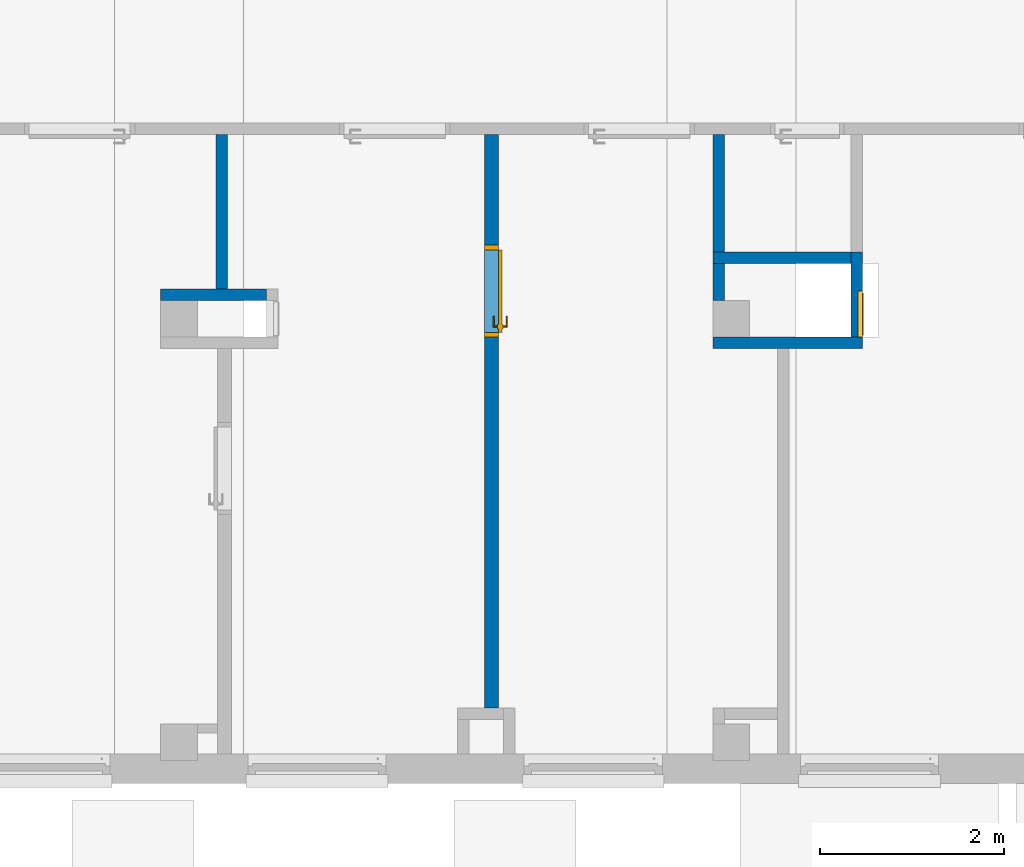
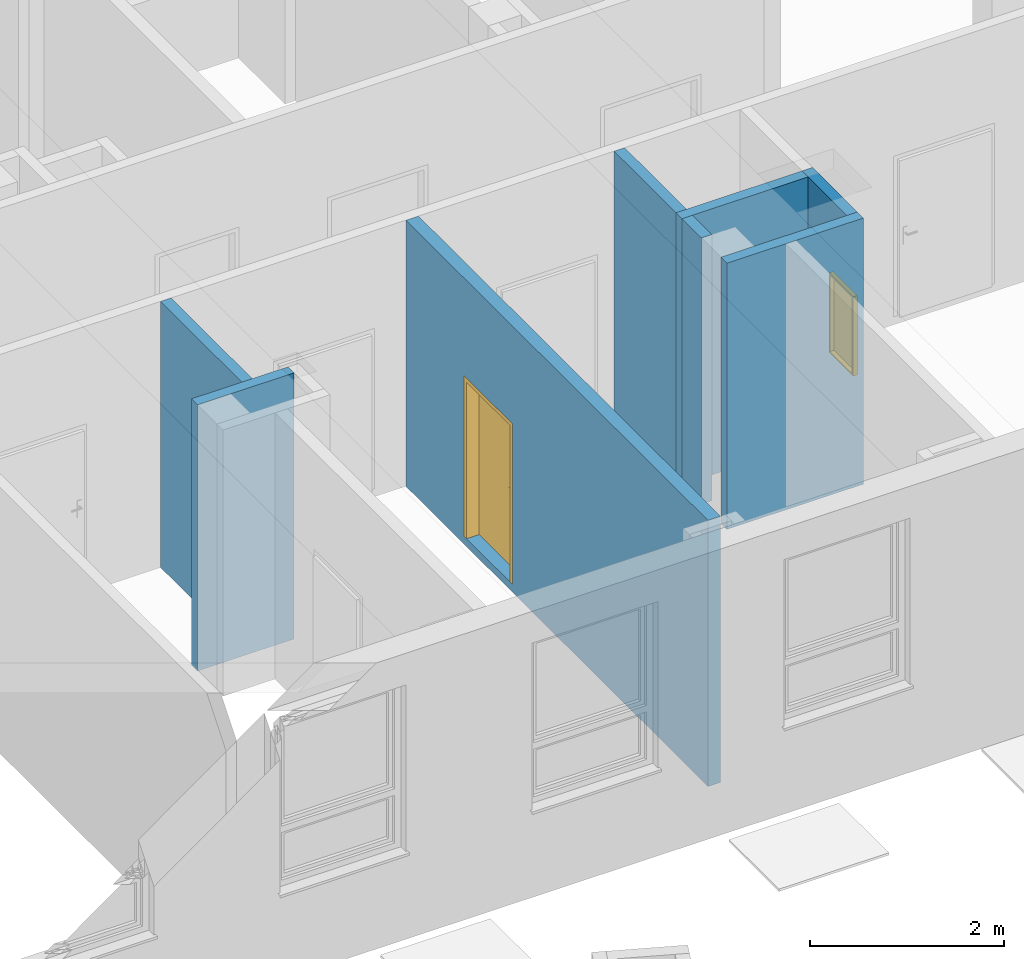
# One storey, part 17 of 140: 8 walls, 1 door, 1 window, 2 openings.
"""IFC4 building model written with IfcOpenShell, lengths in metres."""

from ifc_helpers import new_model, entity, si_unit, converted_unit, derived_unit, frame, frame_2d, origin, origin_with_axes, place, context, subcontext, project, spatial, polyline, rectangle, outline, extrude, closed_shell, open_shell, faceted_brep, surface_model, source, transform, mapped, material, layer, layer_set, layer_usage, type_object, element, fill, save


model = new_model("IFC4")

# Units and contexts
model_context = context("Model", 3, precision=1e-05, world=origin())
body_context = subcontext(model_context, "Body", "Model", "MODEL_VIEW")
ifc_project = project(units=[si_unit("LENGTHUNIT", "METRE"), si_unit("AREAUNIT", "SQUARE_METRE"), si_unit("VOLUMEUNIT", "CUBIC_METRE"), si_unit("MASSUNIT", "GRAM", prefix="KILO"), converted_unit("PLANEANGLEUNIT", "DEGREE", entity("IfcPlaneAngleMeasure", 0.0174532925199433), si_unit("PLANEANGLEUNIT", "RADIAN"), dimensions=[0, 0, 0, 0, 0, 0, 0]), derived_unit("THERMALTRANSMITTANCEUNIT", [(si_unit("POWERUNIT", "WATT"), 1), (si_unit("THERMODYNAMICTEMPERATUREUNIT", "KELVIN"), -1), (si_unit("LENGTHUNIT", "METRE"), -2)]), derived_unit("VOLUMETRICFLOWRATEUNIT", [(si_unit("LENGTHUNIT", "METRE"), 3), (converted_unit("TIMEUNIT", "hour", entity("IfcTimeMeasure", 3600.0), si_unit("TIMEUNIT", "SECOND"), dimensions=[0, 0, 1, 0, 0, 0, 0]), -1), (si_unit("LENGTHUNIT", "METRE"), -1)])], contexts=[model_context])

# Site, building, storey
site_placement = place(None, origin())
site = spatial("IfcSite", under=ifc_project, at=site_placement, Name="3. ASŘ", CompositionType="ELEMENT")
building_placement = place(site_placement, origin())
building = spatial("IfcBuilding", under=site, at=building_placement, Name="Pavilon C", CompositionType="ELEMENT")
storey_placement = place(building_placement, origin())
storey = spatial("IfcBuildingStorey", under=building, at=storey_placement, Name="Půdorys 1.NP", CompositionType="ELEMENT", Elevation=0.0)

# Wall
ifc_material_1 = material(Name="ZDIVO Z CDm")
ifc_layer_1 = layer(ifc_material_1, 0.125)
ifc_layer_set_1 = layer_set([ifc_layer_1])
ifc_layer_usage_1 = layer_usage(ifc_layer_set_1, "AXIS2", "POSITIVE", 0.0)
wall_1_placement = place(storey_placement, frame((5.80000000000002, 5.6, -0.1)))
element("IfcWall", 1, at=wall_1_placement, inside=storey, material=ifc_layer_usage_1, Name="ZDIVO Z CDm", context=body_context, shape_type="SweptSolid", body=[
    extrude(rectangle(XDim=1.15000000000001, YDim=0.125, at=frame_2d((0.575000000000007, 0.0625), x_axis=(1.0, 0.0))), origin_with_axes(), (0.0, 0.0, 1.0), 3.35),
])

# Wall, opening, door
ifc_material_2 = material(Name="YTONG 150")
ifc_layer_2 = layer(ifc_material_2, 0.15)
ifc_layer_set_2 = layer_set([ifc_layer_2])
ifc_layer_usage_2 = layer_usage(ifc_layer_set_2, "AXIS2", "POSITIVE", 0.0)
wall_2_placement = place(storey_placement, frame((9.32, 7.4, -0.1), z_axis=(0.0, 0.0, 1.0), x_axis=(-2.9197261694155e-16, -1.0, 0.0)))
wall_2 = element("IfcWall", 2, at=wall_2_placement, inside=storey, material=ifc_layer_usage_2, Name="YTONG 150", context=body_context, shape_type="SweptSolid", body=[
    extrude(rectangle(XDim=6.23, YDim=0.15, at=frame_2d((3.115, 0.075), x_axis=(1.0, 0.0))), origin_with_axes(), (0.0, 0.0, 1.0), 3.35),
])
opening_1_placement = place(wall_2_placement, frame((2.2, 0.150000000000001, 0.1), z_axis=(0.0, -1.0, 0.0), x_axis=(0.0, 0.0, 1.0)))
opening_1 = element("IfcOpeningElement", 3, at=opening_1_placement, cuts=wall_2, Name="Dveřní otvor", ObjectType="Opening", context=body_context, shape_type="SweptSolid", body=[
    extrude(outline(polyline([(0.0, 1.0), (2.02, 1.0), (2.02, 0.0), (0.0, 0.0), (0.0, 1.0)])), origin_with_axes(), (0.0, 0.0, 1.0), 0.15),
])
door_type = type_object("IfcDoorType", Name="D101", OperationType="NOTDEFINED", ParameterTakesPrecedence=False, PredefinedType="DOOR")
shared_shape_1 = source(origin_with_axes(), body_context, "Body", "SurfaceModel", [
    surface_model("IfcShellBasedSurfaceModel", [(0.0, 0.15, 2.02), (0.0, 0.15, -9.18485099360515e-18), (0.05, 0.15, -9.18485099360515e-18), (0.05, 0.15, 2.02), (0.0, 0.0, 9.18485099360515e-18), (0.0, 2.55795384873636e-16, 2.02), (0.05, 2.55795384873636e-16, 2.02), (0.05, 0.0, 9.18485099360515e-18)], [closed_shell([[[0, 1, 2, 3]], [[4, 5, 6, 7]], [[1, 0, 5, 4]], [[2, 1, 4, 7]], [[3, 2, 7, 6]], [[0, 3, 6, 5]]], orient=[[False], [False], [False], [False], [False], [False]])]),
    surface_model("IfcShellBasedSurfaceModel", [(0.95, 0.15, 2.02), (0.95, 0.15, -9.18485099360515e-18), (1.0, 0.15, -9.18485099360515e-18), (1.0, 0.15, 2.02), (0.95, 0.0, 9.18485099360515e-18), (0.95, 2.55795384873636e-16, 2.02), (1.0, 2.55795384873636e-16, 2.02), (1.0, 0.0, 9.18485099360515e-18)], [closed_shell([[[0, 1, 2, 3]], [[4, 5, 6, 7]], [[1, 0, 5, 4]], [[2, 1, 4, 7]], [[3, 2, 7, 6]], [[0, 3, 6, 5]]], orient=[[False], [False], [False], [False], [False], [False]])]),
    surface_model("IfcShellBasedSurfaceModel", [(0.05, 0.15, 2.02), (0.05, 0.15, 1.97), (0.95, 0.15, 1.97), (0.95, 0.15, 2.02), (0.05, 2.27373675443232e-16, 1.97), (0.05, 2.27373675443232e-16, 2.02), (0.95, 2.27373675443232e-16, 2.02), (0.95, 2.27373675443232e-16, 1.97)], [closed_shell([[[0, 1, 2, 3]], [[4, 5, 6, 7]], [[1, 0, 5, 4]], [[2, 1, 4, 7]], [[3, 2, 7, 6]], [[0, 3, 6, 5]]], orient=[[False], [False], [False], [False], [False], [False]])]),
    surface_model("IfcShellBasedSurfaceModel", [(0.05, 0.19, 1.97), (0.05, 0.19, -1.40834381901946e-17), (0.95, 0.19, -1.40834381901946e-17), (0.95, 0.19, 1.97), (0.05, 0.15, -9.18485099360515e-18), (0.05, 0.15, 1.97), (0.95, 0.15, 1.97), (0.95, 0.15, -9.18485099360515e-18)], [closed_shell([[[0, 1, 2, 3]], [[4, 5, 6, 7]], [[1, 0, 5, 4]], [[2, 1, 4, 7]], [[3, 2, 7, 6]], [[0, 3, 6, 5]]], orient=[[False], [False], [False], [False], [False], [False]])]),
    surface_model("IfcShellBasedSurfaceModel", [(0.86, 0.15, 1.125), (0.86, 0.15, 0.91), (0.91, 0.15, 0.91), (0.91, 0.15, 1.125), (0.86, 0.14, 0.91), (0.86, 0.14, 1.125), (0.91, 0.14, 1.125), (0.91, 0.14, 0.91)], [closed_shell([[[0, 1, 2, 3]], [[4, 5, 6, 7]], [[1, 0, 5, 4]], [[2, 1, 4, 7]], [[3, 2, 7, 6]], [[0, 3, 6, 5]]], orient=[[False], [False], [False], [False], [False], [False]])]),
    surface_model("IfcShellBasedSurfaceModel", [(0.885, 0.14, 1.06), (0.88, 0.14, 1.05866025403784), (0.876339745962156, 0.14, 1.055), (0.875, 0.14, 1.05), (0.876339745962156, 0.14, 1.045), (0.88, 0.14, 1.04133974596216), (0.885, 0.14, 1.04), (0.89, 0.14, 1.04133974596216), (0.893660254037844, 0.14, 1.045), (0.895, 0.14, 1.05), (0.893660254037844, 0.14, 1.055), (0.89, 0.14, 1.05866025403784), (0.89, 0.0950000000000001, 1.05866025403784), (0.885, 0.1, 1.06), (0.893660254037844, 0.0913397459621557, 1.055), (0.895, 0.0900000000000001, 1.05), (0.893660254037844, 0.0913397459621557, 1.045), (0.89, 0.0950000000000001, 1.04133974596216), (0.885, 0.1, 1.04), (0.88, 0.105, 1.04133974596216), (0.876339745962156, 0.108660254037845, 1.045), (0.875, 0.11, 1.05), (0.876339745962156, 0.108660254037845, 1.055), (0.88, 0.105, 1.05866025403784), (0.77, 0.0950000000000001, 1.05866025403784), (0.77, 0.1, 1.06), (0.77, 0.0913397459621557, 1.055), (0.77, 0.0900000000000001, 1.05), (0.77, 0.0913397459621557, 1.045), (0.77, 0.0950000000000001, 1.04133974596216), (0.77, 0.1, 1.04), (0.77, 0.105, 1.04133974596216), (0.77, 0.108660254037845, 1.045), (0.77, 0.11, 1.05), (0.77, 0.108660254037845, 1.055), (0.77, 0.105, 1.05866025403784)], [open_shell([[[0, 1, 2, 3, 4, 5, 6, 7, 8, 9, 10, 11]], [[0, 11, 12, 13]], [[11, 10, 14, 12]], [[10, 9, 15, 14]], [[9, 8, 16, 15]], [[8, 7, 17, 16]], [[7, 6, 18, 17]], [[6, 5, 19, 18]], [[5, 4, 20, 19]], [[4, 3, 21, 20]], [[3, 2, 22, 21]], [[2, 1, 23, 22]], [[1, 0, 13, 23]], [[13, 12, 24, 25]], [[12, 14, 26, 24]], [[14, 15, 27, 26]], [[15, 16, 28, 27]], [[16, 17, 29, 28]], [[17, 18, 30, 29]], [[18, 19, 31, 30]], [[19, 20, 32, 31]], [[20, 21, 33, 32]], [[21, 22, 34, 33]], [[22, 23, 35, 34]], [[23, 13, 25, 35]]], orient=[[False], [False], [False], [False], [False], [False], [False], [False], [False], [False], [False], [False], [False], [False], [False], [False], [False], [False], [False], [False], [False], [False], [False], [False], [False]])]),
    surface_model("IfcShellBasedSurfaceModel", [(0.86, 0.19, 1.125), (0.91, 0.19, 1.125), (0.91, 0.19, 0.91), (0.86, 0.19, 0.91), (0.86, 0.2, 0.91), (0.91, 0.2, 0.91), (0.91, 0.2, 1.125), (0.86, 0.2, 1.125)], [closed_shell([[[0, 1, 2, 3]], [[4, 5, 6, 7]], [[3, 4, 7, 0]], [[2, 5, 4, 3]], [[1, 6, 5, 2]], [[0, 7, 6, 1]]], orient=[[False], [False], [False], [False], [False], [False]])]),
    surface_model("IfcShellBasedSurfaceModel", [(0.885, 0.2, 1.06), (0.89, 0.2, 1.05866025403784), (0.893660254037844, 0.2, 1.055), (0.895, 0.2, 1.05), (0.893660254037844, 0.2, 1.045), (0.89, 0.2, 1.04133974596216), (0.885, 0.2, 1.04), (0.88, 0.2, 1.04133974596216), (0.876339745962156, 0.2, 1.045), (0.875, 0.2, 1.05), (0.876339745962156, 0.2, 1.055), (0.88, 0.2, 1.05866025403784), (0.885, 0.24, 1.06), (0.89, 0.245, 1.05866025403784), (0.893660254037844, 0.248660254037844, 1.055), (0.895, 0.25, 1.05), (0.893660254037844, 0.248660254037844, 1.045), (0.89, 0.245, 1.04133974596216), (0.885, 0.24, 1.04), (0.88, 0.235, 1.04133974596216), (0.876339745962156, 0.231339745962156, 1.045), (0.875, 0.23, 1.05), (0.876339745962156, 0.231339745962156, 1.055), (0.88, 0.235, 1.05866025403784), (0.77, 0.24, 1.06), (0.77, 0.245, 1.05866025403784), (0.77, 0.248660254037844, 1.055), (0.77, 0.25, 1.05), (0.77, 0.248660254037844, 1.045), (0.77, 0.245, 1.04133974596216), (0.77, 0.24, 1.04), (0.77, 0.235, 1.04133974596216), (0.77, 0.231339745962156, 1.045), (0.77, 0.23, 1.05), (0.77, 0.231339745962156, 1.055), (0.77, 0.235, 1.05866025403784)], [open_shell([[[0, 1, 2, 3, 4, 5, 6, 7, 8, 9, 10, 11]], [[0, 12, 13, 1]], [[1, 13, 14, 2]], [[2, 14, 15, 3]], [[3, 15, 16, 4]], [[4, 16, 17, 5]], [[5, 17, 18, 6]], [[6, 18, 19, 7]], [[7, 19, 20, 8]], [[8, 20, 21, 9]], [[9, 21, 22, 10]], [[10, 22, 23, 11]], [[11, 23, 12, 0]], [[12, 24, 25, 13]], [[13, 25, 26, 14]], [[14, 26, 27, 15]], [[15, 27, 28, 16]], [[16, 28, 29, 17]], [[17, 29, 30, 18]], [[18, 30, 31, 19]], [[19, 31, 32, 20]], [[20, 32, 33, 21]], [[21, 33, 34, 22]], [[22, 34, 35, 23]], [[23, 35, 24, 12]]], orient=[[False], [False], [False], [False], [False], [False], [False], [False], [False], [False], [False], [False], [False], [False], [False], [False], [False], [False], [False], [False], [False], [False], [False], [False], [False]])]),
])
door_placement = place(opening_1_placement, frame((0.0, 0.999999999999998, 0.150000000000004), z_axis=(1.0, 0.0, 0.0), x_axis=(0.0, -1.0, -4.70432571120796e-17)))
door = element("IfcDoor", 4, at=door_placement, inside=storey, type_object=door_type, Name="D101", OverallHeight=2.02, OverallWidth=1.0, context=body_context, shape_type="MappedRepresentation", body=[
    mapped(shared_shape_1, transform((0.0, 0.0, 0.0), x_axis=(1.0, 0.0, 0.0), y_axis=(0.0, 1.0, 0.0), z_axis=(0.0, 0.0, 1.0), scale=1.0)),
])
fill(opening_1, door)

# Walls
ifc_material_3 = material(Name="ZDIVO Z CDm")
ifc_layer_3 = layer(ifc_material_3, 0.125)
ifc_layer_set_3 = layer_set([ifc_layer_3])
ifc_layer_usage_3 = layer_usage(ifc_layer_set_3, "AXIS2", "POSITIVE", 0.0)
wall_3_placement = place(storey_placement, frame((11.925, 5.6, -0.1), z_axis=(0.0, 0.0, 1.0), x_axis=(0.0, 1.0, 0.0)))
element("IfcWall", 5, at=wall_3_placement, inside=storey, material=ifc_layer_usage_3, Name="ZDIVO Z CDm", context=body_context, shape_type="SweptSolid", body=[
    extrude(rectangle(XDim=0.4, YDim=0.125, at=frame_2d((0.2, 0.0625), x_axis=(1.0, 0.0))), origin_with_axes(), (0.0, 0.0, 1.0), 3.35),
])
ifc_material_4 = material(Name="ZDIVO Z CDm")
ifc_layer_4 = layer(ifc_material_4, 0.125)
ifc_layer_set_4 = layer_set([ifc_layer_4])
ifc_layer_usage_4 = layer_usage(ifc_layer_set_4, "AXIS2", "POSITIVE", 0.0)
wall_4_placement = place(storey_placement, frame((13.425, 5.2, -0.1), z_axis=(0.0, 0.0, 1.0), x_axis=(-1.0, 5.59689047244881e-16, 0.0)))
element("IfcWall", 6, at=wall_4_placement, inside=storey, material=ifc_layer_usage_4, Name="ZDIVO Z CDm", context=body_context, shape_type="SweptSolid", body=[
    extrude(rectangle(XDim=1.62499999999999, YDim=0.125, at=frame_2d((0.812499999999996, 0.0625), x_axis=(1.0, 0.0))), origin_with_axes(), (0.0, 0.0, 1.0), 3.35),
])

# Wall, opening, window
ifc_material_5 = material(Name="ZDIVO Z CDm")
ifc_layer_5 = layer(ifc_material_5, 0.125)
ifc_layer_set_5 = layer_set([ifc_layer_5])
ifc_layer_usage_5 = layer_usage(ifc_layer_set_5, "AXIS2", "POSITIVE", 0.0)
wall_5_placement = place(storey_placement, frame((13.3, 6.125, -0.1), z_axis=(0.0, 0.0, 1.0), x_axis=(0.0, -1.0, 0.0)))
wall_5 = element("IfcWall", 7, at=wall_5_placement, inside=storey, material=ifc_layer_usage_5, Name="ZDIVO Z CDm", context=body_context, shape_type="SweptSolid", body=[
    extrude(rectangle(XDim=0.925, YDim=0.125, at=frame_2d((0.4625, 0.0625), x_axis=(1.0, 0.0))), origin_with_axes(), (0.0, 0.0, 1.0), 3.35),
])
opening_2_placement = place(wall_5_placement, frame((0.925, 0.125, 1.3), z_axis=(0.0, -1.0, 0.0), x_axis=(0.0, 0.0, 1.0)))
opening_2 = element("IfcOpeningElement", 8, at=opening_2_placement, cuts=wall_5, Name="Okenní otvor", ObjectType="Opening", context=body_context, shape_type="SweptSolid", body=[
    extrude(outline(polyline([(0.0, 0.499999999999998), (1.0, 0.499999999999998), (1.0, 0.0), (0.0, 0.0), (0.0, 0.499999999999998)])), origin_with_axes(), (0.0, 0.0, 1.0), 0.125),
])
shared_shape_2 = source(origin_with_axes(), body_context, "Body", "Brep", [
    faceted_brep([(0.0, 0.0600000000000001, 1.0), (0.0, 0.06, 4.91096680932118e-19), (0.02, 0.06, 4.91096680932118e-19), (0.02, 0.0600000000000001, 1.0), (0.0, 0.01, 6.61433067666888e-18), (0.0, 0.0100000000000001, 1.0), (0.02, 0.0100000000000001, 1.0), (0.02, 0.01, 6.61433067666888e-18)], [[[0, 1, 2, 3]], [[4, 5, 6, 7]], [[1, 0, 5, 4]], [[2, 1, 4, 7]], [[3, 2, 7, 6]], [[0, 3, 6, 5]]], orient=[[False], [False], [False], [False], [False], [False]]),
    faceted_brep([(0.48, 0.0600000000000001, 1.0), (0.48, 0.06, 4.91096680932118e-19), (0.5, 0.06, 4.91096680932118e-19), (0.5, 0.0600000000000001, 1.0), (0.48, 0.01, 6.61433067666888e-18), (0.48, 0.0100000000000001, 1.0), (0.5, 0.0100000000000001, 1.0), (0.5, 0.01, 6.61433067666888e-18)], [[[0, 1, 2, 3]], [[4, 5, 6, 7]], [[1, 0, 5, 4]], [[2, 1, 4, 7]], [[3, 2, 7, 6]], [[0, 3, 6, 5]]], orient=[[False], [False], [False], [False], [False], [False]]),
    faceted_brep([(0.02, 0.06, 0.02), (0.02, 0.06, 4.91096680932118e-19), (0.48, 0.06, 4.91096680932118e-19), (0.48, 0.06, 0.02), (0.02, 0.01, 6.61433067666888e-18), (0.02, 0.01, 0.02), (0.48, 0.01, 0.02), (0.48, 0.01, 6.61433067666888e-18)], [[[0, 1, 2, 3]], [[4, 5, 6, 7]], [[1, 0, 5, 4]], [[2, 1, 4, 7]], [[3, 2, 7, 6]], [[0, 3, 6, 5]]], orient=[[False], [False], [False], [False], [False], [False]]),
    faceted_brep([(0.02, 0.0600000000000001, 1.0), (0.02, 0.0600000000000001, 0.98), (0.48, 0.0600000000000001, 0.98), (0.48, 0.0600000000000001, 1.0), (0.02, 0.0100000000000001, 0.98), (0.02, 0.0100000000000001, 1.0), (0.48, 0.0100000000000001, 1.0), (0.48, 0.0100000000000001, 0.98)], [[[0, 1, 2, 3]], [[4, 5, 6, 7]], [[1, 0, 5, 4]], [[2, 1, 4, 7]], [[3, 2, 7, 6]], [[0, 3, 6, 5]]], orient=[[False], [False], [False], [False], [False], [False]]),
    faceted_brep([(0.02, 0.0100000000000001, 0.98), (0.02, 0.01, 0.02), (0.48, 0.01, 0.02), (0.48, 0.0100000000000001, 0.98), (0.02, 0.0, 0.02), (0.02, 1.17239551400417e-16, 0.98), (0.48, 1.17239551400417e-16, 0.98), (0.48, 0.0, 0.02)], [[[0, 1, 2, 3]], [[4, 5, 6, 7]], [[1, 0, 5, 4]], [[2, 1, 4, 7]], [[3, 2, 7, 6]], [[0, 3, 6, 5]]], orient=[[False], [False], [False], [False], [False], [False]]),
])
window_placement = place(opening_2_placement, frame((0.0, 0.499999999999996, -0.00999999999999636), z_axis=(1.0, 0.0, 0.0), x_axis=(0.0, -0.999999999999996, 1.22464679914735e-16)))
window = element("IfcWindow", 9, at=window_placement, inside=storey, Name="O01", OverallHeight=1.0, OverallWidth=0.5, PartitioningType="USERDEFINED", PredefinedType="WINDOW", context=body_context, shape_type="MappedRepresentation", body=[
    mapped(shared_shape_2, transform((0.0, 0.0, 0.0), x_axis=(1.0, 0.0, 0.0), y_axis=(0.0, -1.0, 0.0), z_axis=(0.0, 0.0, 1.0), scale=0.999999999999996)),
])
fill(opening_2, window)

# Walls
ifc_material_6 = material(Name="ZDIVO Z CDm")
ifc_layer_6 = layer(ifc_material_6, 0.125)
ifc_layer_set_6 = layer_set([ifc_layer_6])
ifc_layer_usage_6 = layer_usage(ifc_layer_set_6, "AXIS2", "POSITIVE", 0.0)
wall_6_placement = place(storey_placement, frame((11.8, 6.0, -0.1), z_axis=(0.0, 0.0, 1.0), x_axis=(1.0, -6.06329801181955e-16, 0.0)))
element("IfcWall", 10, at=wall_6_placement, inside=storey, material=ifc_layer_usage_6, Name="ZDIVO Z CDm", context=body_context, shape_type="SweptSolid", body=[
    extrude(rectangle(XDim=1.49999999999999, YDim=0.125, at=frame_2d((0.749999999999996, 0.0625), x_axis=(1.0, 0.0))), origin_with_axes(), (0.0, 0.0, 1.0), 3.35),
])
ifc_material_7 = material(Name="YTONG 125")
ifc_layer_7 = layer(ifc_material_7, 0.125)
ifc_layer_set_7 = layer_set([ifc_layer_7])
ifc_layer_usage_7 = layer_usage(ifc_layer_set_7, "AXIS2", "POSITIVE", 0.0)
wall_7_placement = place(storey_placement, frame((11.8, 7.4, -0.1), z_axis=(0.0, 0.0, 1.0), x_axis=(0.0, -1.0, 0.0)))
element("IfcWall", 11, at=wall_7_placement, inside=storey, material=ifc_layer_usage_7, Name="YTONG 125", context=body_context, shape_type="SweptSolid", body=[
    extrude(rectangle(XDim=1.275, YDim=0.125, at=frame_2d((0.637499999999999, 0.0625), x_axis=(1.0, 0.0))), origin_with_axes(), (0.0, 0.0, 1.0), 3.35),
])
ifc_material_8 = material(Name="ZDIVO Z CDm")
ifc_layer_8 = layer(ifc_material_8, 0.125)
ifc_layer_set_8 = layer_set([ifc_layer_8])
ifc_layer_usage_8 = layer_usage(ifc_layer_set_8, "AXIS2", "POSITIVE", 0.0)
wall_8_placement = place(storey_placement, frame((6.40000000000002, 7.4, -0.1), z_axis=(0.0, 0.0, 1.0), x_axis=(0.0, -1.0, 0.0)))
element("IfcWall", 12, at=wall_8_placement, inside=storey, material=ifc_layer_usage_8, Name="ZDIVO Z CDm", context=body_context, shape_type="SweptSolid", body=[
    extrude(rectangle(XDim=1.675, YDim=0.125, at=frame_2d((0.837499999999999, 0.0625), x_axis=(1.0, 0.0))), origin_with_axes(), (0.0, 0.0, 1.0), 3.35),
])

save(model, "model.ifc")
